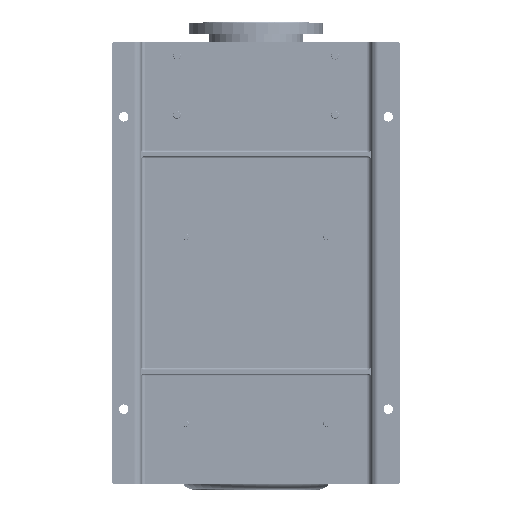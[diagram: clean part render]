
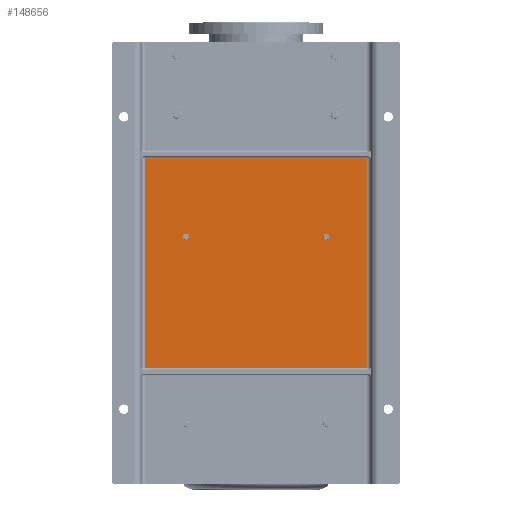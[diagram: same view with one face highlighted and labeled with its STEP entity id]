
A CAD part, front view. The second image highlights one B-rep face of the part: STEP entity #148656.
In plain terms, the highlighted planar face has unit normal (0, -1, 0).
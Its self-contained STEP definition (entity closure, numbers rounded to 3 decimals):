
#349 = CARTESIAN_POINT ( 'NONE',  ( 75., 90., -825. ) ) ;
#548 = ORIENTED_EDGE ( 'NONE', *, *, #51858, .T. ) ;
#2257 = AXIS2_PLACEMENT_3D ( 'NONE', #152709, #81606, #111144 ) ;
#3829 = VERTEX_POINT ( 'NONE', #141519 ) ;
#3858 = ORIENTED_EDGE ( 'NONE', *, *, #22454, .T. ) ;
#4653 = LINE ( 'NONE', #157079, #133653 ) ;
#4663 = CARTESIAN_POINT ( 'NONE',  ( 543., 90., -494. ) ) ;
#5508 = VERTEX_POINT ( 'NONE', #178831 ) ;
#8180 = CIRCLE ( 'NONE', #2257, 8. ) ;
#15925 = PLANE ( 'NONE',  #105984 ) ;
#16855 = EDGE_LOOP ( 'NONE', ( #137449, #41516, #164792, #170850 ) ) ;
#22454 = EDGE_CURVE ( 'NONE', #155497, #69702, #104778, .T. ) ;
#24409 = DIRECTION ( 'NONE',  ( 0., 0., -1. ) ) ;
#25136 = AXIS2_PLACEMENT_3D ( 'NONE', #4663, #31468, #73948 ) ;
#25307 = LINE ( 'NONE', #37334, #42701 ) ;
#31468 = DIRECTION ( 'NONE',  ( 0., 1., 0. ) ) ;
#32468 = CIRCLE ( 'NONE', #135719, 8. ) ;
#34387 = CARTESIAN_POINT ( 'NONE',  ( 645., 90., -825. ) ) ;
#34601 = DIRECTION ( 'NONE',  ( 0., 0., -1. ) ) ;
#35663 = DIRECTION ( 'NONE',  ( 0., 0., -1. ) ) ;
#37334 = CARTESIAN_POINT ( 'NONE',  ( 645., 90., -290. ) ) ;
#40051 = DIRECTION ( 'NONE',  ( 0., 1., 0. ) ) ;
#40076 = LINE ( 'NONE', #349, #92065 ) ;
#41516 = ORIENTED_EDGE ( 'NONE', *, *, #177644, .T. ) ;
#42701 = VECTOR ( 'NONE', #124125, 1000. ) ;
#49805 = EDGE_CURVE ( 'NONE', #181724, #121747, #52093, .T. ) ;
#51858 = EDGE_CURVE ( 'NONE', #3829, #5508, #173715, .T. ) ;
#52093 = LINE ( 'NONE', #108440, #120309 ) ;
#52286 = CARTESIAN_POINT ( 'NONE',  ( 75., 90., -1120. ) ) ;
#53910 = CARTESIAN_POINT ( 'NONE',  ( 187., 90., -494. ) ) ;
#57573 = DIRECTION ( 'NONE',  ( 1., 0., 0. ) ) ;
#61339 = EDGE_CURVE ( 'NONE', #154408, #181724, #4653, .T. ) ;
#69702 = VERTEX_POINT ( 'NONE', #130990 ) ;
#73948 = DIRECTION ( 'NONE',  ( 0., 0., 1. ) ) ;
#81606 = DIRECTION ( 'NONE',  ( 0., 1., 0. ) ) ;
#84865 = EDGE_CURVE ( 'NONE', #69702, #155497, #8180, .T. ) ;
#92065 = VECTOR ( 'NONE', #57573, 1000. ) ;
#94742 = EDGE_LOOP ( 'NONE', ( #116290, #548 ) ) ;
#95669 = DIRECTION ( 'NONE',  ( 0., 0., -1. ) ) ;
#96182 = EDGE_CURVE ( 'NONE', #132545, #154408, #25307, .T. ) ;
#96577 = DIRECTION ( 'NONE',  ( 0., -1., 0. ) ) ;
#100317 = EDGE_LOOP ( 'NONE', ( #118340, #3858 ) ) ;
#104778 = CIRCLE ( 'NONE', #25136, 8. ) ;
#105984 = AXIS2_PLACEMENT_3D ( 'NONE', #52286, #96577, #95669 ) ;
#108440 = CARTESIAN_POINT ( 'NONE',  ( 85., 90., -830. ) ) ;
#111144 = DIRECTION ( 'NONE',  ( 0., 0., 1. ) ) ;
#112807 = CARTESIAN_POINT ( 'NONE',  ( 645., 90., -295. ) ) ;
#116290 = ORIENTED_EDGE ( 'NONE', *, *, #141696, .T. ) ;
#118340 = ORIENTED_EDGE ( 'NONE', *, *, #84865, .T. ) ;
#118835 = DIRECTION ( 'NONE',  ( 0., 1., 0. ) ) ;
#120309 = VECTOR ( 'NONE', #34601, 1000. ) ;
#120556 = CARTESIAN_POINT ( 'NONE',  ( 543., 90., -502. ) ) ;
#121747 = VERTEX_POINT ( 'NONE', #131702 ) ;
#124125 = DIRECTION ( 'NONE',  ( 0., 0., 1. ) ) ;
#128616 = FACE_BOUND ( 'NONE', #100317, .T. ) ;
#130990 = CARTESIAN_POINT ( 'NONE',  ( 543., 90., -486. ) ) ;
#131702 = CARTESIAN_POINT ( 'NONE',  ( 85., 90., -825. ) ) ;
#132545 = VERTEX_POINT ( 'NONE', #34387 ) ;
#133653 = VECTOR ( 'NONE', #156164, 1000. ) ;
#135719 = AXIS2_PLACEMENT_3D ( 'NONE', #162202, #118835, #35663 ) ;
#137449 = ORIENTED_EDGE ( 'NONE', *, *, #49805, .T. ) ;
#141519 = CARTESIAN_POINT ( 'NONE',  ( 187., 90., -502. ) ) ;
#141696 = EDGE_CURVE ( 'NONE', #5508, #3829, #32468, .T. ) ;
#144204 = AXIS2_PLACEMENT_3D ( 'NONE', #53910, #40051, #24409 ) ;
#146172 = CARTESIAN_POINT ( 'NONE',  ( 85., 90., -295. ) ) ;
#148656 = ADVANCED_FACE ( 'NONE', ( #128616, #156325, #152010 ), #15925, .T. ) ;
#152010 = FACE_OUTER_BOUND ( 'NONE', #16855, .T. ) ;
#152709 = CARTESIAN_POINT ( 'NONE',  ( 543., 90., -494. ) ) ;
#154408 = VERTEX_POINT ( 'NONE', #112807 ) ;
#155497 = VERTEX_POINT ( 'NONE', #120556 ) ;
#156164 = DIRECTION ( 'NONE',  ( -1., 0., 0. ) ) ;
#156325 = FACE_BOUND ( 'NONE', #94742, .T. ) ;
#157079 = CARTESIAN_POINT ( 'NONE',  ( 75., 90., -295. ) ) ;
#162202 = CARTESIAN_POINT ( 'NONE',  ( 187., 90., -494. ) ) ;
#164792 = ORIENTED_EDGE ( 'NONE', *, *, #96182, .T. ) ;
#170850 = ORIENTED_EDGE ( 'NONE', *, *, #61339, .T. ) ;
#173715 = CIRCLE ( 'NONE', #144204, 8. ) ;
#177644 = EDGE_CURVE ( 'NONE', #121747, #132545, #40076, .T. ) ;
#178831 = CARTESIAN_POINT ( 'NONE',  ( 187., 90., -486. ) ) ;
#181724 = VERTEX_POINT ( 'NONE', #146172 ) ;
